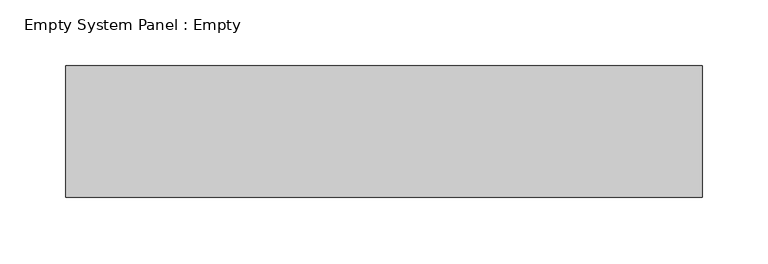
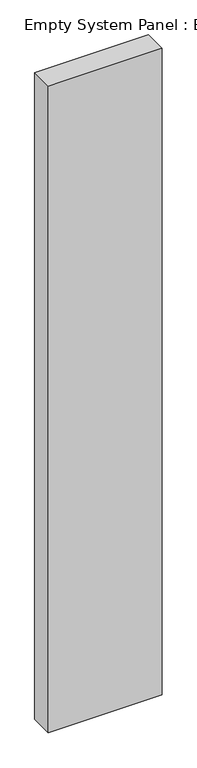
"""IFC4 building model written with IfcOpenShell, lengths in millimetres: plate geometry, Empty System Panel : Empty."""

from ifc_helpers import new_model, si_unit, origin, origin_with_axes, place, context, project, spatial, polyline, outline, extrude, source, transform, mapped, element, save


def empty_system_panel_empty_1ce8b4fb(model_context):
    return source(origin(), model_context, "Body", "SweptSolid", [
        extrude(outline(polyline([(241.7391306, -50.0), (-241.7391306, -50.0), (-241.7391306, 50.0), (241.7391306, 50.0), (241.7391306, -50.0)])), origin_with_axes(), (0.0, 0.0, 1.0), 2906.3195938),
    ])


if __name__ == "__main__":
    model = new_model("IFC4")
    model_context = context("Model", 3, world=origin())
    ifc_project = project(units=[si_unit("LENGTHUNIT", "METRE", prefix="MILLI")], contexts=[model_context])
    site = spatial("IfcSite", under=ifc_project)
    building = spatial("IfcBuilding", under=site)
    placement = place(None, origin())
    empty_system_panel_empty_shape = empty_system_panel_empty_1ce8b4fb(model_context)
    element("IfcPlate", 1, ObjectType="Empty System Panel : Empty", at=placement, inside=building, context=model_context, shape_type="MappedRepresentation", body=[
        mapped(empty_system_panel_empty_shape, transform((0.0, 0.0, 0.0), x_axis=(1.0, 0.0, 0.0), y_axis=(0.0, 1.0, 0.0), z_axis=(0.0, 0.0, 1.0))),
    ])
    save(model, "model.ifc")
